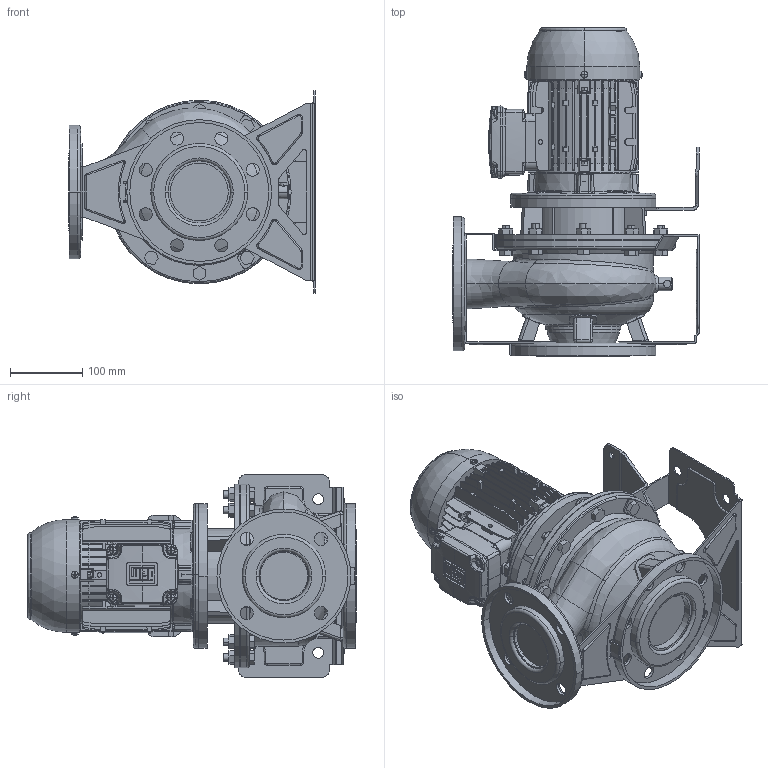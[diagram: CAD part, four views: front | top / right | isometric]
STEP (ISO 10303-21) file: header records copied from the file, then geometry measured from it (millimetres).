
FILE_DESCRIPTION (( 'STEP AP214' ), '1' );
FILE_NAME ('3LS4 65-125_0.55 & 0.75_(80)_W21.STEP', '2026-10-05T01:24:59', ( '' ), ( '' ), 'SwSTEP 2.0', 'SolidWorks 2024', '' );
FILE_SCHEMA (( 'AUTOMOTIVE_DESIGN' ));
Length unit declared in the file: inch
Products named in the file (3): 3LS4 65-125_0.55 & 0.75_(80)_W21; 80 ALIE3_W21_B5; 3SF4_65-125_0_55
Assembly tree (2 placements, depth 2):
  3LS4 65-125_0.55 & 0.75_(80)_W21
    3SF4_65-125_0_55
    80 ALIE3_W21_B5
Bounding box: 340 x 454 x 280 mm (x, y, z)
Volume: 9587170.7 mm3; surface area: 1224135.3 mm2
Topology: 12 solids, 18 shells, 2997 faces, 7846 edges, 5075 vertices
Faces by surface type: plane 1856, cylinder 706, bspline 161, torus 133, cone 99, sphere 42
Entity records: 114604 total; most frequent: CARTESIAN_POINT 41917, ORIENTED_EDGE 15656, DIRECTION 14207, EDGE_CURVE 7828, LINE 5099, VECTOR 5099, VERTEX_POINT 5075, AXIS2_PLACEMENT_3D 4554
